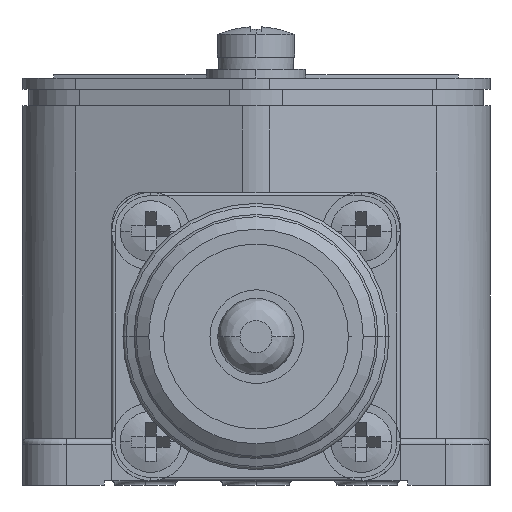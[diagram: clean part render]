
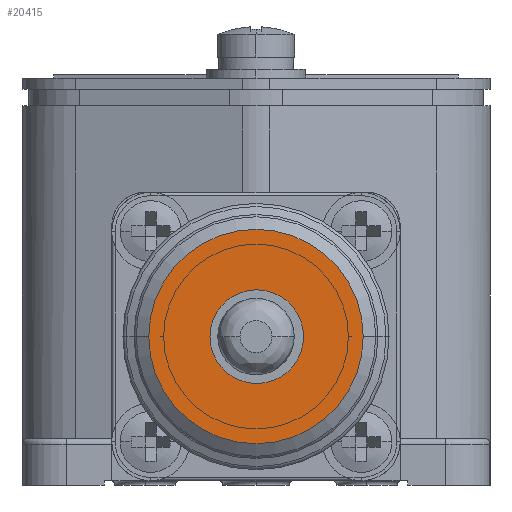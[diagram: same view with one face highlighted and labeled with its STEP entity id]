
A CAD part, left-side view. The second image highlights one B-rep face of the part: STEP entity #20415.
In plain terms, the highlighted planar face has unit normal (-1, 0, 0).
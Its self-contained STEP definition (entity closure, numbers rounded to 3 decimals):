
#2654=CARTESIAN_POINT('',(78.9,21.1,-27.924));
#2655=DIRECTION('',(-1.,0.,0.));
#2656=DIRECTION('',(0.,-1.,0.));
#2657=AXIS2_PLACEMENT_3D('',#2654,#2655,#2656);
#2668=CARTESIAN_POINT('',(78.9,21.1,-27.924));
#2669=DIRECTION('',(1.,0.,0.));
#2670=DIRECTION('',(0.,-1.,0.));
#2671=AXIS2_PLACEMENT_3D('',#2668,#2669,#2670);
#2677=CARTESIAN_POINT('',(78.9,21.033,-27.934));
#2678=DIRECTION('',(-1.,0.,0.));
#2679=DIRECTION('',(0.,0.,1.));
#2680=AXIS2_PLACEMENT_3D('',#2677,#2678,#2679);
#2682=CARTESIAN_POINT('',(78.9,21.033,-27.934));
#2683=DIRECTION('',(-1.,0.,0.));
#2684=DIRECTION('',(0.,0.,-1.));
#2685=AXIS2_PLACEMENT_3D('',#2682,#2683,#2684);
#16673=CARTESIAN_POINT('',(78.9,11.433,-27.924));
#16674=CARTESIAN_POINT('',(78.9,30.767,-27.924));
#16675=VERTEX_POINT('',#16673);
#16676=VERTEX_POINT('',#16674);
#16735=CARTESIAN_POINT('',(78.9,21.033,-23.711));
#16736=CARTESIAN_POINT('',(78.9,21.033,-32.157));
#16737=VERTEX_POINT('',#16735);
#16738=VERTEX_POINT('',#16736);
#20400=CARTESIAN_POINT('',(78.9,21.1,-27.924));
#20401=DIRECTION('',(-1.,0.,0.));
#20402=DIRECTION('',(0.,1.,0.));
#20403=AXIS2_PLACEMENT_3D('',#20400,#20401,#20402);
#20404=PLANE('',#20403);
#20405=ORIENTED_EDGE('',*,*,#20394,.T.);
#20406=ORIENTED_EDGE('',*,*,#20380,.F.);
#20407=EDGE_LOOP('',(#20405,#20406));
#20408=FACE_OUTER_BOUND('',#20407,.F.);
#20410=ORIENTED_EDGE('',*,*,#20409,.T.);
#20412=ORIENTED_EDGE('',*,*,#20411,.T.);
#20413=EDGE_LOOP('',(#20410,#20412));
#20414=FACE_BOUND('',#20413,.F.);
#20415=ADVANCED_FACE('',(#20408,#20414),#20404,.T.);
#2658=CIRCLE('',#2657,9.667);
#2672=CIRCLE('',#2671,9.667);
#2681=CIRCLE('',#2680,4.223);
#2686=CIRCLE('',#2685,4.223);
#20380=EDGE_CURVE('',#16675,#16676,#2658,.T.);
#20394=EDGE_CURVE('',#16675,#16676,#2672,.T.);
#20409=EDGE_CURVE('',#16737,#16738,#2681,.T.);
#20411=EDGE_CURVE('',#16738,#16737,#2686,.T.);
